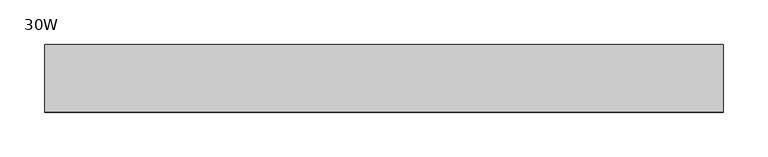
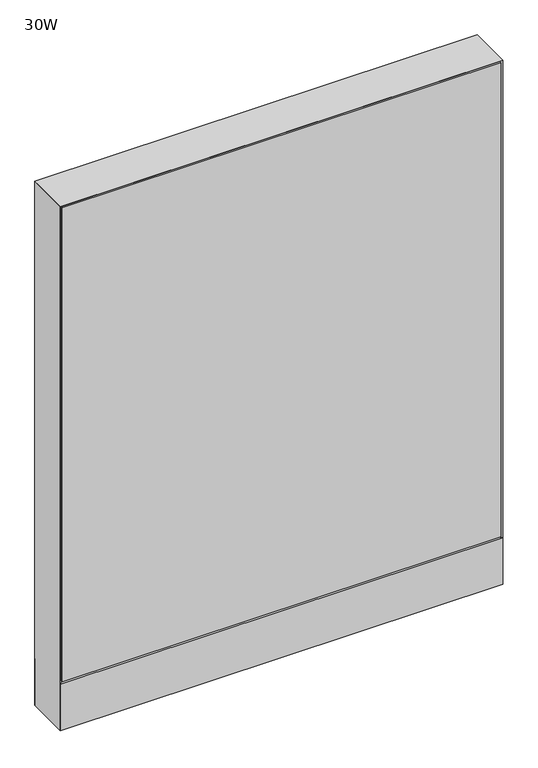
"""IFC4 building model written with IfcOpenShell, lengths in millimetres: furniture geometry, Steelcase - Montage - Frame - 38H - Enhanced Monolithic - Base Cavity : 30W."""

from ifc_helpers import new_model, si_unit, point, frame, frame_2d, origin, origin_with_axes, place, context, project, spatial, polyline, circle_curve, trimmed, segment, composite_curve, outline, extrude, faceted_brep, source, transform, mapped, element, save


def furniture_30w_02666bc1(model_context):
    return source(origin(), model_context, "Body", "SolidModel", [
        extrude(outline(polyline([(3.175, 31.7500194), (3.175, 38.1000194), (758.825, 38.1000194), (758.825, 31.7500194), (3.175, 31.7500194)])), frame((0.0, 0.0, 92.075), z_axis=(0.0, 0.0, 1.0), x_axis=(1.0, 0.0, 0.0)), (0.0, 0.0, 1.0), 863.6),
        extrude(outline(polyline([(3.175, -31.7500194), (758.825, -31.7500194), (758.825, -38.1000194), (3.175, -38.1000194), (3.175, -31.7500194)])), frame((0.0, 0.0, 92.075), z_axis=(0.0, 0.0, 1.0), x_axis=(1.0, 0.0, 0.0)), (0.0, 0.0, 1.0), 863.6),
        extrude(outline(polyline([(6.350003, -31.7499985), (755.649997, -31.7499985), (762.0, -38.1000015), (0.0, -38.1000015), (6.350003, -31.7499985)])), frame((0.0, 0.0, 4.064), z_axis=(0.0, 0.0, 1.0), x_axis=(1.0, 0.0, 0.0)), (0.0, 0.0, 1.0), 84.835997),
        extrude(outline(polyline([(6.3500002, 31.7500017), (0.0, 38.1000015), (762.0, 38.1000015), (755.6500002, 31.7500017), (6.3500002, 31.7500017)])), frame((0.0, 0.0, 4.064), z_axis=(0.0, 0.0, 1.0), x_axis=(1.0, 0.0, 0.0)), (0.0, 0.0, 1.0), 84.835997),
        faceted_brep([(755.6499516, -31.749953, 952.4999516), (6.3500484, -31.749953, 952.4999516), (6.3500484, 31.749953, 952.4999516), (755.6499516, 31.749953, 952.4999516), (0.0, -38.1000015, 958.85), (762.0, -38.1000015, 958.85), (762.0, 38.1000015, 958.85), (0.0, 38.1000015, 958.85)], [[[0, 1, 2, 3]], [[4, 5, 6, 7]], [[5, 4, 1, 0]], [[7, 6, 3, 2]], [[1, 4, 7, 2]], [[5, 0, 3, 6]]]),
        extrude(outline(composite_curve([segment(trimmed(circle_curve(frame_2d((44.45, 0.0)), 15.24), [point((29.21, 0.0))], [point((59.69, 0.0))], False, "CARTESIAN"), True, "CONTINUOUS"), segment(trimmed(circle_curve(frame_2d((44.45, 0.0)), 15.24), [point((59.69, 0.0))], [point((29.21, 0.0))], False, "CARTESIAN"), True, "CONTINUOUS")], self_intersect=False)), origin_with_axes(), (0.0, 0.0, 1.0), 4.064),
        extrude(outline(composite_curve([segment(trimmed(circle_curve(frame_2d((717.55, 0.0)), 15.24), [point((702.31, 0.0))], [point((732.79, 0.0))], False, "CARTESIAN"), True, "CONTINUOUS"), segment(trimmed(circle_curve(frame_2d((717.55, 0.0)), 15.24), [point((732.79, 0.0))], [point((702.31, 0.0))], False, "CARTESIAN"), True, "CONTINUOUS")], self_intersect=False)), origin_with_axes(), (0.0, 0.0, 1.0), 4.064),
        faceted_brep([(762.0, -38.1000106, 4.064), (762.0, 38.1000015, 4.064), (762.0, 38.1000015, 958.85), (762.0, -38.1000106, 958.8499637), (0.0, 38.1000015, 4.064), (0.0, -38.1000015, 4.064), (0.0, -38.1000015, 958.85), (0.0, 38.1000015, 958.85), (755.6499879, 31.7500017, 619.125), (6.35, 31.7500017, 619.125), (6.35, -31.7499985, 619.125), (755.6499879, -31.7499985, 619.125), (6.35, 31.7500017, 606.425), (755.6499879, 31.7500017, 606.425), (755.6499879, -31.7499985, 606.425), (6.35, -31.7499985, 606.425), (6.35, 31.7500015, 4.064), (6.35, -31.7500015, 4.064), (755.6499879, 31.7499894, 4.064), (755.6499879, -31.7499985, 4.064), (6.35, 31.7500015, 952.5), (6.35, -31.7500015, 952.5), (755.6499879, -31.7499985, 952.4999516), (755.6499879, 31.7499896, 952.4999516)], [[[0, 1, 2, 3]], [[4, 5, 6, 7]], [[8, 9, 10, 11]], [[12, 13, 14, 15]], [[16, 17, 5, 4]], [[18, 1, 0, 19]], [[17, 16, 12, 15]], [[10, 9, 20, 21]], [[18, 19, 14, 13]], [[8, 11, 22, 23]], [[16, 4, 7, 20, 9, 12]], [[5, 17, 15, 10, 21, 6]], [[19, 0, 3, 22, 11, 14]], [[1, 18, 13, 8, 23, 2]], [[7, 6, 21, 20]], [[3, 2, 23, 22]], [[13, 12, 9, 8]], [[11, 10, 15, 14]]]),
    ])


if __name__ == "__main__":
    model = new_model("IFC4")
    model_context = context("Model", 3, world=origin())
    ifc_project = project(units=[si_unit("LENGTHUNIT", "METRE", prefix="MILLI")], contexts=[model_context])
    site = spatial("IfcSite", under=ifc_project)
    building = spatial("IfcBuilding", under=site)
    placement = place(None, origin())
    furniture_30w_shape = furniture_30w_02666bc1(model_context)
    element("IfcFurniture", 1, ObjectType="Steelcase - Montage - Frame - 38H - Enhanced Monolithic - Base Cavity : 30W", at=placement, inside=building, context=model_context, shape_type="MappedRepresentation", body=[
        mapped(furniture_30w_shape, transform((0.0, 0.0, 0.0), x_axis=(1.0, 0.0, 0.0), y_axis=(0.0, 1.0, 0.0), z_axis=(0.0, 0.0, 1.0))),
    ])
    save(model, "model.ifc")
